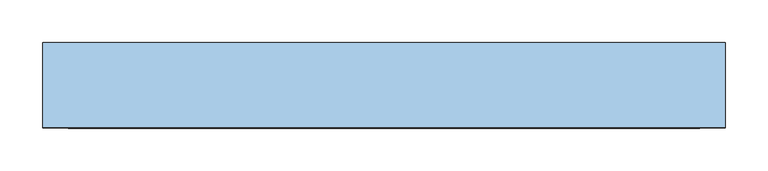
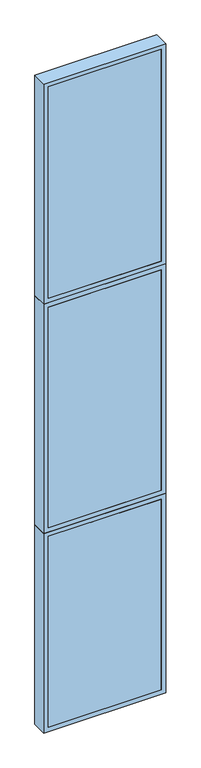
"""IFC4 building model written with IfcOpenShell, lengths in millimetres: window geometry, TRP_CP_ARC_FI_V1 : VE_VF1_80."""

from ifc_helpers import new_model, si_unit, frame, origin, place, context, project, spatial, polyline, outline, extrude, source, transform, mapped, element, save


def window_0b33e4cf(model_context):
    return source(origin(), model_context, "Body", "SweptSolid", [
        extrude(outline(polyline([(370.0, -50.0), (-370.0, -50.0), (-370.0, -30.0), (370.0, -30.0), (370.0, -50.0)])), frame((0.0, 0.0, 30.0), z_axis=(0.0, 0.0, 1.0), x_axis=(1.0, 0.0, 0.0)), (0.0, 0.0, 1.0), 1323.0),
        extrude(outline(polyline([(1383.0, 400.0), (1383.0, -400.0), (0.0, -400.0), (0.0, 400.0), (1383.0, 400.0)]), holes=[polyline([(30.0, 370.0), (30.0, -370.0), (1353.0, -370.0), (1353.0, 370.0), (30.0, 370.0)])]), frame((0.0, -50.0, 0.0), z_axis=(0.0, 1.0, 0.0), x_axis=(0.0, 0.0, 1.0)), (0.0, 0.0, 1.0), 100.0),
        extrude(outline(polyline([(2973.0, 400.0), (2973.0, -400.0), (1383.0, -400.0), (1383.0, 400.0), (2973.0, 400.0)]), holes=[polyline([(1413.0, 370.0), (1413.0, -370.0), (2943.0, -370.0), (2943.0, 370.0), (1413.0, 370.0)])]), frame((0.0, -50.0, 0.0), z_axis=(0.0, 1.0, 0.0), x_axis=(0.0, 0.0, 1.0)), (0.0, 0.0, 1.0), 100.0),
        extrude(outline(polyline([(370.0, -50.0), (-370.0, -50.0), (-370.0, -30.0), (370.0, -30.0), (370.0, -50.0)])), frame((0.0, 0.0, 1413.0), z_axis=(0.0, 0.0, 1.0), x_axis=(1.0, 0.0, 0.0)), (0.0, 0.0, 1.0), 1530.0),
        extrude(outline(polyline([(4500.0, 400.0), (4500.0, -400.0), (2973.0, -400.0), (2973.0, 400.0), (4500.0, 400.0)]), holes=[polyline([(3003.0, 370.0), (3003.0, -370.0), (4470.0, -370.0), (4470.0, 370.0), (3003.0, 370.0)])]), frame((0.0, -50.0, 0.0), z_axis=(0.0, 1.0, 0.0), x_axis=(0.0, 0.0, 1.0)), (0.0, 0.0, 1.0), 100.0),
        extrude(outline(polyline([(370.0, -50.0), (-370.0, -50.0), (-370.0, -30.0), (370.0, -30.0), (370.0, -50.0)])), frame((0.0, 0.0, 3003.0), z_axis=(0.0, 0.0, 1.0), x_axis=(1.0, 0.0, 0.0)), (0.0, 0.0, 1.0), 1467.0),
    ])


if __name__ == "__main__":
    model = new_model("IFC4")
    model_context = context("Model", 3, world=origin())
    ifc_project = project(units=[si_unit("LENGTHUNIT", "METRE", prefix="MILLI")], contexts=[model_context])
    site = spatial("IfcSite", under=ifc_project)
    building = spatial("IfcBuilding", under=site)
    placement = place(None, origin())
    window_shape = window_0b33e4cf(model_context)
    element("IfcWindow", 1, ObjectType="TRP_CP_ARC_FI_V1 : VE_VF1_80", at=placement, inside=building, context=model_context, shape_type="MappedRepresentation", body=[
        mapped(window_shape, transform((0.0, 0.0, 0.0), x_axis=(1.0, 0.0, 0.0), y_axis=(0.0, 1.0, 0.0), z_axis=(0.0, 0.0, 1.0))),
    ])
    save(model, "model.ifc")
